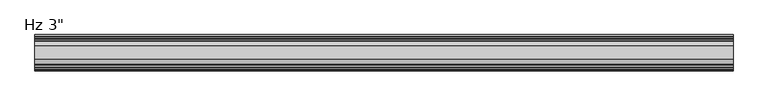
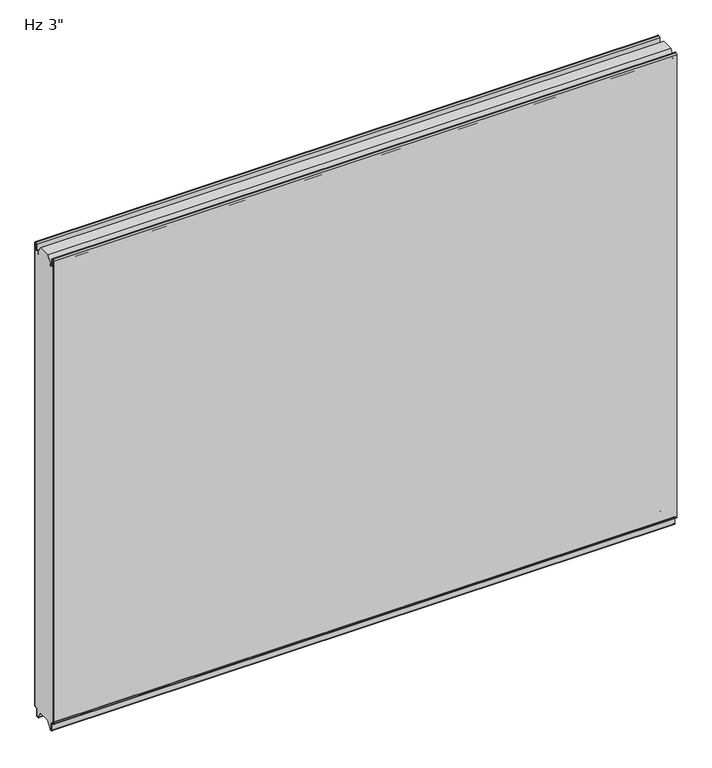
"""IFC4 building model written with IfcOpenShell, lengths in millimetres: plate geometry."""

from ifc_helpers import new_model, si_unit, frame, origin, place, context, project, spatial, polyline, circle_curve, source, transform, mapped, element, save
from ifc_brep_helpers import plane_surface, cylinder_surface, revolved_surface, advanced_brep


def plate_0367c04b(model_context):
    return source(origin(), model_context, "Body", "AdvancedBrep", [
        advanced_brep(
        [(-730.0, -73.2227194, 3.8499499), (-730.0, -75.1999935, 5.8272239), (-730.0, -75.2, 1150.8100652), (-730.0, -73.2227315, 1152.7873337), (-730.0, -72.1806329, 1152.7873337), (-730.0, -70.2033643, 1150.8100652), (-730.0, -70.2033643, 1136.6216802), (-730.0, -67.6154878, 1134.0338036), (-730.0, -63.2950697, 1134.0338036), (-730.0, -62.7060762, 1133.4253365), (-730.0, -62.7060762, 1131.0482432), (-730.0, -61.7066023, 1131.0482432), (-730.0, -61.7066023, 1136.4905123), (-730.0, -52.4490865, 1152.525), (-730.0, -23.7509179, 1152.525), (-730.0, -14.4933977, 1136.4905123), (-730.0, -14.4933977, 1131.0482432), (-730.0, -13.4939238, 1131.0482432), (-730.0, -13.4939238, 1133.4253365), (-730.0, -12.9049303, 1134.0338036), (-730.0, -8.5845122, 1134.0338036), (-730.0, -5.9966357, 1136.6216802), (-730.0, -5.9966357, 1150.8100652), (-730.0, -4.0193671, 1152.7873337), (-730.0, -2.9772685, 1152.7873337), (-730.0, -1.0, 1150.8100652), (-730.0, -1.0, 5.8272239), (-730.0, -2.9772806, 3.8499499), (-730.0, -5.2691705, 3.8499499), (-730.0, -9.2464377, -0.1273173), (-730.0, -9.2464377, -15.7237417), (-730.0, -9.8343146, -16.3116186), (-730.0, -12.9058635, -16.3116186), (-730.0, -13.4937402, -15.723742), (-730.0, -13.4937402, -13.3687064), (-730.0, -14.4937402, -13.3687064), (-730.0, -14.4937402, -15.6582851), (-730.0, -23.7509135, 0.0), (-730.0, -52.4490865, 0.0), (-730.0, -61.7062598, -15.6582851), (-730.0, -61.7062598, -13.3687064), (-730.0, -62.7062598, -13.3687064), (-730.0, -62.7062598, -15.723742), (-730.0, -63.2941365, -16.3116186), (-730.0, -66.3656854, -16.3116186), (-730.0, -66.9535623, -15.7237417), (-730.0, -66.9535623, -0.1273173), (-730.0, -70.9308295, 3.8499499), (730.0, -73.2227194, 3.8499499), (730.0, -70.9308295, 3.8499499), (730.0, -66.9535623, -0.1273173), (730.0, -66.9535623, -15.7237417), (730.0, -66.3656854, -16.3116186), (730.0, -63.2941365, -16.3116186), (730.0, -62.7062598, -15.723742), (730.0, -62.7062598, -13.3687064), (730.0, -61.7062598, -13.3687064), (730.0, -61.7062598, -15.6582851), (730.0, -52.4490865, 0.0), (730.0, -23.7509179, 0.0), (730.0, -14.4937402, -15.6582851), (730.0, -14.4937402, -13.3687064), (730.0, -13.4937402, -13.3687064), (730.0, -13.4937402, -15.723742), (730.0, -12.9058635, -16.3116186), (730.0, -9.8343146, -16.3116186), (730.0, -9.2464377, -15.7237417), (730.0, -9.2464377, -0.1273173), (730.0, -5.2691705, 3.8499499), (730.0, -2.9772806, 3.8499499), (730.0, -1.0000065, 5.8272239), (730.0, -1.0, 1150.8100652), (730.0, -2.9772685, 1152.7873337), (730.0, -4.0193671, 1152.7873337), (730.0, -5.9966357, 1150.8100652), (730.0, -5.9966357, 1136.6216802), (730.0, -8.5845122, 1134.0338036), (730.0, -12.9049303, 1134.0338036), (730.0, -13.4939238, 1133.4253365), (730.0, -13.4939238, 1131.0482432), (730.0, -14.4933977, 1131.0482432), (730.0, -14.4933977, 1136.4905123), (730.0, -23.7509135, 1152.525), (730.0, -52.4490865, 1152.525), (730.0, -61.7066023, 1136.4905123), (730.0, -61.7066023, 1131.0482432), (730.0, -62.7060762, 1131.0482432), (730.0, -62.7060762, 1133.4253365), (730.0, -63.2950697, 1134.0338036), (730.0, -67.6154878, 1134.0338036), (730.0, -70.2033643, 1136.6216802), (730.0, -70.2033643, 1150.8100652), (730.0, -72.1806329, 1152.7873337), (730.0, -73.2227315, 1152.7873337), (730.0, -75.2, 1150.8100652), (730.0, -75.2, 5.8272239)],
        [
            (0, 1, circle_curve(frame((-730.0, -73.2227194, 5.8272239), z_axis=(-1.0, 0.0, 0.0), x_axis=(0.0, 0.0, -1.0)), 1.977274)),
            (1, 2),
            (2, 3, circle_curve(frame((-730.0, -73.2227315, 1150.8100652), z_axis=(-1.0, 0.0, 0.0), x_axis=(0.0, 0.0, -1.0)), 1.9772685)),
            (3, 4),
            (4, 5, circle_curve(frame((-730.0, -72.1806329, 1150.8100652), z_axis=(-1.0, 0.0, 0.0), x_axis=(0.0, 0.0, -1.0)), 1.9772685)),
            (5, 6),
            (6, 7, circle_curve(frame((-730.0, -67.6154878, 1136.6216802), z_axis=(1.0, 0.0, 0.0), x_axis=(0.0, 0.0, -1.0)), 2.5878765)),
            (7, 8),
            (8, 9, circle_curve(frame((-730.0, -63.2950697, 1133.4444985), z_axis=(-1.0, 0.0, 0.0), x_axis=(0.0, 0.0, -1.0)), 0.5893051)),
            (9, 10),
            (10, 11),
            (11, 12),
            (12, 13),
            (13, 14),
            (14, 15),
            (15, 16),
            (16, 17),
            (17, 18),
            (18, 19, circle_curve(frame((-730.0, -12.9049303, 1133.4444985), z_axis=(-1.0, 0.0, 0.0), x_axis=(0.0, 1.0, 0.0)), 0.5893051)),
            (19, 20),
            (20, 21, circle_curve(frame((-730.0, -8.5845122, 1136.6216802), z_axis=(1.0, 0.0, 0.0), x_axis=(0.0, 1.0, 0.0)), 2.5878765)),
            (21, 22),
            (22, 23, circle_curve(frame((-730.0, -4.0193671, 1150.8100652), z_axis=(-1.0, 0.0, 0.0), x_axis=(0.0, 1.0, 0.0)), 1.9772685)),
            (23, 24),
            (24, 25, circle_curve(frame((-730.0, -2.9772685, 1150.8100652), z_axis=(-1.0, 0.0, 0.0), x_axis=(0.0, 1.0, 0.0)), 1.9772685)),
            (25, 26),
            (26, 27, circle_curve(frame((-730.0, -2.9772806, 5.8272239), z_axis=(-1.0, 0.0, 0.0), x_axis=(0.0, 1.0, 0.0)), 1.977274)),
            (27, 28),
            (28, 29, circle_curve(frame((-730.0, -5.2691705, -0.1273173), z_axis=(1.0, 0.0, 0.0), x_axis=(0.0, 1.0, 0.0)), 3.9772671)),
            (29, 30),
            (30, 31, circle_curve(frame((-730.0, -9.8343146, -15.7237417), z_axis=(-1.0, 0.0, 0.0), x_axis=(0.0, 1.0, 0.0)), 0.5878769)),
            (31, 32),
            (32, 33, circle_curve(frame((-730.0, -12.9058635, -15.723742), z_axis=(-1.0, 0.0, 0.0), x_axis=(0.0, 1.0, 0.0)), 0.5878766)),
            (33, 34),
            (34, 35),
            (35, 36),
            (36, 37),
            (37, 38),
            (38, 39),
            (39, 40),
            (40, 41),
            (41, 42),
            (42, 43, circle_curve(frame((-730.0, -63.2941365, -15.723742), z_axis=(-1.0, 0.0, 0.0), x_axis=(0.0, 0.0, -1.0)), 0.5878766)),
            (43, 44),
            (44, 45, circle_curve(frame((-730.0, -66.3656854, -15.7237417), z_axis=(-1.0, 0.0, 0.0), x_axis=(0.0, 0.0, -1.0)), 0.5878769)),
            (45, 46),
            (46, 47, circle_curve(frame((-730.0, -70.9308295, -0.1273173), z_axis=(1.0, 0.0, 0.0), x_axis=(0.0, 0.0, -1.0)), 3.9772671)),
            (47, 0),
            (48, 49),
            (49, 50, circle_curve(frame((730.0, -70.9308295, -0.1273173), z_axis=(-1.0, 0.0, 0.0), x_axis=(0.0, 0.0, -1.0)), 3.9772671)),
            (50, 51),
            (51, 52, circle_curve(frame((730.0, -66.3656854, -15.7237417), z_axis=(1.0, 0.0, 0.0), x_axis=(0.0, 0.0, -1.0)), 0.5878769)),
            (52, 53),
            (53, 54, circle_curve(frame((730.0, -63.2941365, -15.723742), z_axis=(1.0, 0.0, 0.0), x_axis=(0.0, 0.0, -1.0)), 0.5878766)),
            (54, 55),
            (55, 56),
            (56, 57),
            (57, 58),
            (58, 59),
            (59, 60),
            (60, 61),
            (61, 62),
            (62, 63),
            (63, 64, circle_curve(frame((730.0, -12.9058635, -15.723742), z_axis=(1.0, 0.0, 0.0), x_axis=(0.0, 1.0, 0.0)), 0.5878766)),
            (64, 65),
            (65, 66, circle_curve(frame((730.0, -9.8343146, -15.7237417), z_axis=(1.0, 0.0, 0.0), x_axis=(0.0, 1.0, 0.0)), 0.5878769)),
            (66, 67),
            (67, 68, circle_curve(frame((730.0, -5.2691705, -0.1273173), z_axis=(-1.0, 0.0, 0.0), x_axis=(0.0, 1.0, 0.0)), 3.9772671)),
            (68, 69),
            (69, 70, circle_curve(frame((730.0, -2.9772806, 5.8272239), z_axis=(1.0, 0.0, 0.0), x_axis=(0.0, 1.0, 0.0)), 1.977274)),
            (70, 71),
            (71, 72, circle_curve(frame((730.0, -2.9772685, 1150.8100652), z_axis=(1.0, 0.0, 0.0), x_axis=(0.0, 1.0, 0.0)), 1.9772685)),
            (72, 73),
            (73, 74, circle_curve(frame((730.0, -4.0193671, 1150.8100652), z_axis=(1.0, 0.0, 0.0), x_axis=(0.0, 1.0, 0.0)), 1.9772685)),
            (74, 75),
            (75, 76, circle_curve(frame((730.0, -8.5845122, 1136.6216802), z_axis=(-1.0, 0.0, 0.0), x_axis=(0.0, 1.0, 0.0)), 2.5878765)),
            (76, 77),
            (77, 78, circle_curve(frame((730.0, -12.9049303, 1133.4444985), z_axis=(1.0, 0.0, 0.0), x_axis=(0.0, 1.0, 0.0)), 0.5893051)),
            (78, 79),
            (79, 80),
            (80, 81),
            (81, 82),
            (82, 83),
            (83, 84),
            (84, 85),
            (85, 86),
            (86, 87),
            (87, 88, circle_curve(frame((730.0, -63.2950697, 1133.4444985), z_axis=(1.0, 0.0, 0.0), x_axis=(0.0, 0.0, -1.0)), 0.5893051)),
            (88, 89),
            (89, 90, circle_curve(frame((730.0, -67.6154878, 1136.6216802), z_axis=(-1.0, 0.0, 0.0), x_axis=(0.0, 0.0, -1.0)), 2.5878765)),
            (90, 91),
            (91, 92, circle_curve(frame((730.0, -72.1806329, 1150.8100652), z_axis=(1.0, 0.0, 0.0), x_axis=(0.0, 0.0, -1.0)), 1.9772685)),
            (92, 93),
            (93, 94, circle_curve(frame((730.0, -73.2227315, 1150.8100652), z_axis=(1.0, 0.0, 0.0), x_axis=(0.0, 0.0, -1.0)), 1.9772685)),
            (94, 95),
            (95, 48, circle_curve(frame((730.0, -73.2227194, 5.8272239), z_axis=(1.0, 0.0, 0.0), x_axis=(0.0, 0.0, -1.0)), 1.977274)),
            (13, 83),
            (82, 14),
            (58, 38),
            (37, 59),
            (47, 49),
            (48, 0),
            (46, 50),
            (45, 51),
            (44, 52),
            (43, 53),
            (42, 54),
            (41, 55),
            (40, 56),
            (39, 57),
            (12, 84),
            (11, 85),
            (10, 86),
            (9, 87),
            (8, 88),
            (7, 89),
            (6, 90),
            (5, 91),
            (4, 92),
            (3, 93),
            (2, 94),
            (1, 95),
            (26, 70),
            (69, 27),
            (25, 71),
            (24, 72),
            (23, 73),
            (22, 74),
            (21, 75),
            (20, 76),
            (19, 77),
            (18, 78),
            (17, 79),
            (16, 80),
            (15, 81),
            (36, 60),
            (35, 61),
            (34, 62),
            (33, 63),
            (32, 64),
            (31, 65),
            (30, 66),
            (29, 67),
            (28, 68),
        ],
        [
            plane_surface(frame((-730.0, -75.2, 576.2625), z_axis=(-1.0, 0.0, 0.0), x_axis=(0.0, -1.0, 0.0))),
            plane_surface(frame((730.0, -75.2, 576.2625), z_axis=(1.0, 0.0, 0.0), x_axis=(0.0, -1.0, 0.0))),
            plane_surface(frame((-730.0, -52.4490865, 1152.525), z_axis=(0.0, 0.0, 1.0), x_axis=(-1.0, 0.0, 0.0))),
            plane_surface(frame((-730.0, -52.4490865, 0.0), z_axis=(0.0, 0.0, -1.0), x_axis=(1.0, 0.0, 0.0))),
            plane_surface(frame((-730.0, -73.2227194, 3.8499499), z_axis=(0.0, 0.0, -1.0), x_axis=(1.0, 0.0, 0.0))),
            revolved_surface(polyline([(730.0, -70.9308295, -4.1045844), (-730.0, -70.9308295, -4.1045844)]), (-730.0, -70.9308295, -0.1273173), (1.0, 0.0, 0.0)),
            plane_surface(frame((-730.0, -66.9535623, -0.1273173), z_axis=(0.0, -1.0, 0.0), x_axis=(1.0, 0.0, 0.0))),
            cylinder_surface(frame((-730.0, -66.3656854, -15.7237417), z_axis=(-1.0, 0.0, 0.0), x_axis=(0.0, 0.0, -1.0)), 0.5878769),
            plane_surface(frame((-730.0, -66.3656854, -16.3116186), z_axis=(0.0, 0.0, -1.0), x_axis=(1.0, 0.0, 0.0))),
            cylinder_surface(frame((-730.0, -63.2941365, -15.723742), z_axis=(-1.0, 0.0, 0.0), x_axis=(0.0, 0.0, -1.0)), 0.5878766),
            plane_surface(frame((-730.0, -62.7062598, -15.723742), z_axis=(0.0, 1.0, 0.0), x_axis=(1.0, 0.0, 0.0))),
            plane_surface(frame((-730.0, -62.7062598, -13.3687064), z_axis=(0.0, 0.0, -1.0), x_axis=(1.0, 0.0, 0.0))),
            plane_surface(frame((-730.0, -61.7062598, -13.3687064), z_axis=(0.0, -1.0, 0.0), x_axis=(1.0, 0.0, 0.0))),
            plane_surface(frame((-730.0, -61.7062598, -15.6582851), z_axis=(0.0, 0.8608169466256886, -0.5089147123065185), x_axis=(1.0, 0.0, 0.0))),
            plane_surface(frame((-730.0, -52.4490865, 1152.525), z_axis=(0.0, -0.8660254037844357, 0.5000000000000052), x_axis=(1.0, 0.0, 0.0))),
            plane_surface(frame((-730.0, -61.7066023, 1136.4905123), z_axis=(0.0, -1.0, 0.0), x_axis=(1.0, 0.0, 0.0))),
            plane_surface(frame((-730.0, -61.7066023, 1131.0482432), z_axis=(0.0, 0.0, 1.0), x_axis=(1.0, 0.0, 0.0))),
            plane_surface(frame((-730.0, -62.7060762, 1131.0482432), z_axis=(0.0, 1.0, 0.0), x_axis=(1.0, 0.0, 0.0))),
            cylinder_surface(frame((-730.0, -63.2950697, 1133.4444985), z_axis=(-1.0, 0.0, 0.0), x_axis=(0.0, 0.0, -1.0)), 0.5893051),
            plane_surface(frame((-730.0, -63.2950697, 1134.0338036), z_axis=(0.0, 0.0, 1.0), x_axis=(1.0, 0.0, 0.0))),
            revolved_surface(polyline([(730.0, -67.6154878, 1134.0338037), (-730.0, -67.6154878, 1134.0338037)]), (-730.0, -67.6154878, 1136.6216802), (1.0, 0.0, 0.0)),
            plane_surface(frame((-730.0, -70.2033643, 1136.6216802), z_axis=(0.0, 1.0, 0.0), x_axis=(1.0, 0.0, 0.0))),
            cylinder_surface(frame((-730.0, -72.1806329, 1150.8100652), z_axis=(-1.0, 0.0, 0.0), x_axis=(0.0, 0.0, -1.0)), 1.9772685),
            plane_surface(frame((-730.0, -72.1806329, 1152.7873337), z_axis=(0.0, 0.0, 1.0), x_axis=(1.0, 0.0, 0.0))),
            cylinder_surface(frame((-730.0, -73.2227315, 1150.8100652), z_axis=(-1.0, 0.0, 0.0), x_axis=(0.0, 0.0, -1.0)), 1.9772685),
            plane_surface(frame((-730.0, -75.2, 1150.8100652), z_axis=(0.0, -1.0, 0.0), x_axis=(1.0, 0.0, 0.0))),
            cylinder_surface(frame((-730.0, -73.2227194, 5.8272239), z_axis=(-1.0, 0.0, 0.0), x_axis=(0.0, 0.0, -1.0)), 1.977274),
            cylinder_surface(frame((-730.0, -2.9772806, 5.8272239), z_axis=(-1.0, 0.0, 0.0), x_axis=(0.0, 1.0, 0.0)), 1.977274),
            plane_surface(frame((-730.0, -1.0, 5.8272239), z_axis=(0.0, 1.0, 0.0), x_axis=(1.0, 0.0, 0.0))),
            cylinder_surface(frame((-730.0, -2.9772685, 1150.8100652), z_axis=(-1.0, 0.0, 0.0), x_axis=(0.0, 1.0, 0.0)), 1.9772685),
            plane_surface(frame((-730.0, -2.9772685, 1152.7873337), z_axis=(0.0, 0.0, 1.0), x_axis=(1.0, 0.0, 0.0))),
            cylinder_surface(frame((-730.0, -4.0193671, 1150.8100652), z_axis=(-1.0, 0.0, 0.0), x_axis=(0.0, 1.0, 0.0)), 1.9772685),
            plane_surface(frame((-730.0, -5.9966357, 1150.8100652), z_axis=(0.0, -1.0, 0.0), x_axis=(1.0, 0.0, 0.0))),
            revolved_surface(polyline([(730.0, -5.996635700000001, 1136.6216802), (-730.0, -5.996635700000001, 1136.6216802)]), (-730.0, -8.5845122, 1136.6216802), (1.0, 0.0, 0.0)),
            plane_surface(frame((-730.0, -8.5845122, 1134.0338036), z_axis=(0.0, 0.0, 1.0), x_axis=(1.0, 0.0, 0.0))),
            cylinder_surface(frame((-730.0, -12.9049303, 1133.4444985), z_axis=(-1.0, 0.0, 0.0), x_axis=(0.0, 1.0, 0.0)), 0.5893051),
            plane_surface(frame((-730.0, -13.4939238, 1133.4253365), z_axis=(0.0, -1.0, 0.0), x_axis=(1.0, 0.0, 0.0))),
            plane_surface(frame((-730.0, -13.4939238, 1131.0482432), z_axis=(0.0, 0.0, 1.0), x_axis=(1.0, 0.0, 0.0))),
            plane_surface(frame((-730.0, -14.4933977, 1131.0482432), z_axis=(0.0, 1.0, 0.0), x_axis=(1.0, 0.0, 0.0))),
            plane_surface(frame((-730.0, -14.4933977, 1136.4905123), z_axis=(0.0, 0.8660254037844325, 0.5000000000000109), x_axis=(1.0, 0.0, 0.0))),
            plane_surface(frame((-730.0, -23.7509135, 0.0), z_axis=(0.0, -0.8608169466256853, -0.5089147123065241), x_axis=(1.0, 0.0, 0.0))),
            plane_surface(frame((-730.0, -14.4937402, -15.6582851), z_axis=(0.0, 1.0, 0.0), x_axis=(1.0, 0.0, 0.0))),
            plane_surface(frame((-730.0, -14.4937402, -13.3687064), z_axis=(0.0, 0.0, -1.0), x_axis=(1.0, 0.0, 0.0))),
            plane_surface(frame((-730.0, -13.4937402, -13.3687064), z_axis=(0.0, -1.0, 0.0), x_axis=(1.0, 0.0, 0.0))),
            cylinder_surface(frame((-730.0, -12.9058635, -15.723742), z_axis=(-1.0, 0.0, 0.0), x_axis=(0.0, 1.0, 0.0)), 0.5878766),
            plane_surface(frame((-730.0, -12.9058635, -16.3116186), z_axis=(0.0, 0.0, -1.0), x_axis=(1.0, 0.0, 0.0))),
            cylinder_surface(frame((-730.0, -9.8343146, -15.7237417), z_axis=(-1.0, 0.0, 0.0), x_axis=(0.0, 1.0, 0.0)), 0.5878769),
            plane_surface(frame((-730.0, -9.2464377, -15.7237417), z_axis=(0.0, 1.0, 0.0), x_axis=(1.0, 0.0, 0.0))),
            revolved_surface(polyline([(730.0, -1.2919034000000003, -0.1273173), (-730.0, -1.2919034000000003, -0.1273173)]), (-730.0, -5.2691705, -0.1273173), (1.0, 0.0, 0.0)),
            plane_surface(frame((-730.0, -5.2691705, 3.8499499), z_axis=(0.0, 0.0, -1.0), x_axis=(1.0, 0.0, 0.0))),
        ],
        [
            (0, [[1, 2, 3, 4, 5, 6, 7, 8, 9, 10, 11, 12, 13, 14, 15, 16, 17, 18, 19, 20, 21, 22, 23, 24, 25, 26, 27, 28, 29, 30, 31, 32, 33, 34, 35, 36, 37, 38, 39, 40, 41, 42, 43, 44, 45, 46, 47, 48]]),
            (1, [[49, 50, 51, 52, 53, 54, 55, 56, 57, 58, 59, 60, 61, 62, 63, 64, 65, 66, 67, 68, 69, 70, 71, 72, 73, 74, 75, 76, 77, 78, 79, 80, 81, 82, 83, 84, 85, 86, 87, 88, 89, 90, 91, 92, 93, 94, 95, 96]]),
            (2, [[97, -83, 98, -14]]),
            (3, [[99, -38, 100, -59]]),
            (4, [[101, -49, 102, -48]]),
            (5, [[103, -50, -101, -47]]),
            (6, [[104, -51, -103, -46]]),
            (7, [[105, -52, -104, -45]]),
            (8, [[106, -53, -105, -44]]),
            (9, [[107, -54, -106, -43]]),
            (10, [[108, -55, -107, -42]]),
            (11, [[109, -56, -108, -41]]),
            (12, [[110, -57, -109, -40]]),
            (13, [[-99, -58, -110, -39]]),
            (14, [[111, -84, -97, -13]]),
            (15, [[112, -85, -111, -12]]),
            (16, [[113, -86, -112, -11]]),
            (17, [[114, -87, -113, -10]]),
            (18, [[115, -88, -114, -9]]),
            (19, [[116, -89, -115, -8]]),
            (20, [[117, -90, -116, -7]]),
            (21, [[118, -91, -117, -6]]),
            (22, [[119, -92, -118, -5]]),
            (23, [[120, -93, -119, -4]]),
            (24, [[121, -94, -120, -3]]),
            (25, [[122, -95, -121, -2]]),
            (26, [[-102, -96, -122, -1]]),
            (27, [[123, -70, 124, -27]]),
            (28, [[125, -71, -123, -26]]),
            (29, [[126, -72, -125, -25]]),
            (30, [[127, -73, -126, -24]]),
            (31, [[128, -74, -127, -23]]),
            (32, [[129, -75, -128, -22]]),
            (33, [[130, -76, -129, -21]]),
            (34, [[131, -77, -130, -20]]),
            (35, [[132, -78, -131, -19]]),
            (36, [[133, -79, -132, -18]]),
            (37, [[134, -80, -133, -17]]),
            (38, [[135, -81, -134, -16]]),
            (39, [[-98, -82, -135, -15]]),
            (40, [[136, -60, -100, -37]]),
            (41, [[137, -61, -136, -36]]),
            (42, [[138, -62, -137, -35]]),
            (43, [[139, -63, -138, -34]]),
            (44, [[140, -64, -139, -33]]),
            (45, [[141, -65, -140, -32]]),
            (46, [[142, -66, -141, -31]]),
            (47, [[143, -67, -142, -30]]),
            (48, [[144, -68, -143, -29]]),
            (49, [[-124, -69, -144, -28]]),
        ],
    ),
        advanced_brep(
        [(-730.0, -2.9776189, 3.8501063), (-730.0, -1.0007088, 5.8270163), (-730.0, -1.0007088, 1150.812837), (-730.0, -2.97659, 1152.7887182), (-730.0, -4.019022, 1152.7887182), (-730.0, -5.9969834, 1150.8107568), (-730.0, -5.9969834, 1136.6215971), (-730.0, -8.5846834, 1134.0338971), (-730.0, -12.9049158, 1134.0338971), (-730.0, -13.4939528, 1133.4253599), (-730.0, -13.4939528, 1131.0482432), (-730.0, -14.4933977, 1131.0482432), (-730.0, -14.4933977, 1133.3929042), (-730.0, -12.9049303, 1135.0338036), (-730.0, -8.5845122, 1135.0338036), (-730.0, -6.9966356, 1136.6216801), (-730.0, -6.9966356, 1150.8100652), (-730.0, -4.0193671, 1153.7873337), (-730.0, -2.9772685, 1153.7873337), (-730.0, 0.0, 1150.8100652), (-730.0, 0.0, 5.8272211), (-730.0, -2.977286, 2.8499526), (-730.0, -5.2691698, 2.8499526), (-730.0, -8.2464384, -0.1273159), (-730.0, -8.2464384, -15.7237419), (-730.0, -9.8343149, -17.3116185), (-730.0, -12.9058636, -17.3116185), (-730.0, -14.4937401, -15.7237419), (-730.0, -14.4937401, -13.3687064), (-730.0, -13.4937365, -13.3687064), (-730.0, -13.4937365, -15.7237374), (-730.0, -12.9058654, -16.3116086), (-730.0, -9.834334, -16.3116086), (-730.0, -9.2464768, -15.7237514), (-730.0, -9.2464768, -0.1272391), (-730.0, -5.2691315, 3.8501063), (730.0, -2.9776189, 3.8501063), (730.0, -5.2691315, 3.8501063), (730.0, -9.2464768, -0.1272391), (730.0, -9.2464768, -15.7237514), (730.0, -9.834334, -16.3116086), (730.0, -12.9058654, -16.3116086), (730.0, -13.4937365, -15.7237374), (730.0, -13.4937365, -13.3687064), (730.0, -14.4937401, -13.3687064), (730.0, -14.4937401, -15.7237419), (730.0, -12.9058636, -17.3116185), (730.0, -9.8343149, -17.3116185), (730.0, -8.2464384, -15.7237419), (730.0, -8.2464384, -0.1273159), (730.0, -5.2691698, 2.8499526), (730.0, -2.977286, 2.8499526), (730.0, -1.75e-05, 5.8272211), (730.0, 0.0, 1150.8100652), (730.0, -2.9772685, 1153.7873337), (730.0, -4.0193671, 1153.7873337), (730.0, -6.9966356, 1150.8100652), (730.0, -6.9966356, 1136.6216801), (730.0, -8.5845122, 1135.0338036), (730.0, -12.9049303, 1135.0338036), (730.0, -14.4933977, 1133.3929042), (730.0, -14.4933977, 1131.0482432), (730.0, -13.4939528, 1131.0482432), (730.0, -13.4939528, 1133.4253599), (730.0, -12.9049158, 1134.0338971), (730.0, -8.5846834, 1134.0338971), (730.0, -5.9969834, 1136.6215971), (730.0, -5.9969834, 1150.8107568), (730.0, -4.019022, 1152.7887182), (730.0, -2.97659, 1152.7887182), (730.0, -1.0007088, 1150.812837), (730.0, -1.0007088, 5.8270163)],
        [
            (0, 1, circle_curve(frame((-730.0, -2.9776189, 5.8270163), z_axis=(1.0, 0.0, 0.0), x_axis=(0.0, 1.0, 0.0)), 1.9769101)),
            (1, 2),
            (2, 3, circle_curve(frame((-730.0, -2.97659, 1150.812837), z_axis=(1.0, 0.0, 0.0), x_axis=(0.0, 1.0, 0.0)), 1.9758812)),
            (3, 4),
            (4, 5, circle_curve(frame((-730.0, -4.019022, 1150.8107568), z_axis=(1.0, 0.0, 0.0), x_axis=(0.0, 1.0, 0.0)), 1.9779614)),
            (5, 6),
            (6, 7, circle_curve(frame((-730.0, -8.5846834, 1136.6215971), z_axis=(-1.0, 0.0, 0.0), x_axis=(0.0, 1.0, 0.0)), 2.5877)),
            (7, 8),
            (8, 9, circle_curve(frame((-730.0, -12.9049158, 1133.4445477), z_axis=(1.0, 0.0, 0.0), x_axis=(0.0, 1.0, 0.0)), 0.5893495)),
            (9, 10),
            (10, 11),
            (11, 12),
            (12, 13, circle_curve(frame((-730.0, -12.9049303, 1133.4444985), z_axis=(-1.0, 0.0, 0.0), x_axis=(0.0, 1.0, 0.0)), 1.5893051)),
            (13, 14),
            (14, 15, circle_curve(frame((-730.0, -8.5845122, 1136.6216801), z_axis=(1.0, 0.0, 0.0), x_axis=(0.0, 1.0, 0.0)), 1.5878765)),
            (15, 16),
            (16, 17, circle_curve(frame((-730.0, -4.0193671, 1150.8100652), z_axis=(-1.0, 0.0, 0.0), x_axis=(0.0, 1.0, 0.0)), 2.9772685)),
            (17, 18),
            (18, 19, circle_curve(frame((-730.0, -2.9772685, 1150.8100652), z_axis=(-1.0, 0.0, 0.0), x_axis=(0.0, 1.0, 0.0)), 2.9772685)),
            (19, 20),
            (20, 21, circle_curve(frame((-730.0, -2.977286, 5.8272211), z_axis=(-1.0, 0.0, 0.0), x_axis=(0.0, 1.0, 0.0)), 2.9772685)),
            (21, 22),
            (22, 23, circle_curve(frame((-730.0, -5.2691698, -0.1273159), z_axis=(1.0, 0.0, 0.0), x_axis=(0.0, 1.0, 0.0)), 2.9772685)),
            (23, 24),
            (24, 25, circle_curve(frame((-730.0, -9.8343149, -15.7237419), z_axis=(-1.0, 0.0, 0.0), x_axis=(0.0, 1.0, 0.0)), 1.5878765)),
            (25, 26),
            (26, 27, circle_curve(frame((-730.0, -12.9058636, -15.7237419), z_axis=(-1.0, 0.0, 0.0), x_axis=(0.0, 1.0, 0.0)), 1.5878765)),
            (27, 28),
            (28, 29),
            (29, 30),
            (30, 31, circle_curve(frame((-730.0, -12.9058654, -15.7237374), z_axis=(1.0, 0.0, 0.0), x_axis=(0.0, 1.0, 0.0)), 0.5878711)),
            (31, 32),
            (32, 33, circle_curve(frame((-730.0, -9.834334, -15.7237514), z_axis=(1.0, 0.0, 0.0), x_axis=(0.0, 1.0, 0.0)), 0.5878572)),
            (33, 34),
            (34, 35, circle_curve(frame((-730.0, -5.2691315, -0.1272391), z_axis=(-1.0, 0.0, 0.0), x_axis=(0.0, 1.0, 0.0)), 3.9773454)),
            (35, 0),
            (36, 37),
            (37, 38, circle_curve(frame((730.0, -5.2691315, -0.1272391), z_axis=(1.0, 0.0, 0.0), x_axis=(0.0, 1.0, 0.0)), 3.9773454)),
            (38, 39),
            (39, 40, circle_curve(frame((730.0, -9.834334, -15.7237514), z_axis=(-1.0, 0.0, 0.0), x_axis=(0.0, 1.0, 0.0)), 0.5878572)),
            (40, 41),
            (41, 42, circle_curve(frame((730.0, -12.9058654, -15.7237374), z_axis=(-1.0, 0.0, 0.0), x_axis=(0.0, 1.0, 0.0)), 0.5878711)),
            (42, 43),
            (43, 44),
            (44, 45),
            (45, 46, circle_curve(frame((730.0, -12.9058636, -15.7237419), z_axis=(1.0, 0.0, 0.0), x_axis=(0.0, 1.0, 0.0)), 1.5878765)),
            (46, 47),
            (47, 48, circle_curve(frame((730.0, -9.8343149, -15.7237419), z_axis=(1.0, 0.0, 0.0), x_axis=(0.0, 1.0, 0.0)), 1.5878765)),
            (48, 49),
            (49, 50, circle_curve(frame((730.0, -5.2691698, -0.1273159), z_axis=(-1.0, 0.0, 0.0), x_axis=(0.0, 1.0, 0.0)), 2.9772685)),
            (50, 51),
            (51, 52, circle_curve(frame((730.0, -2.977286, 5.8272211), z_axis=(1.0, 0.0, 0.0), x_axis=(0.0, 1.0, 0.0)), 2.9772685)),
            (52, 53),
            (53, 54, circle_curve(frame((730.0, -2.9772685, 1150.8100652), z_axis=(1.0, 0.0, 0.0), x_axis=(0.0, 1.0, 0.0)), 2.9772685)),
            (54, 55),
            (55, 56, circle_curve(frame((730.0, -4.0193671, 1150.8100652), z_axis=(1.0, 0.0, 0.0), x_axis=(0.0, 1.0, 0.0)), 2.9772685)),
            (56, 57),
            (57, 58, circle_curve(frame((730.0, -8.5845122, 1136.6216801), z_axis=(-1.0, 0.0, 0.0), x_axis=(0.0, 1.0, 0.0)), 1.5878765)),
            (58, 59),
            (59, 60, circle_curve(frame((730.0, -12.9049303, 1133.4444985), z_axis=(1.0, 0.0, 0.0), x_axis=(0.0, 1.0, 0.0)), 1.5893051)),
            (60, 61),
            (61, 62),
            (62, 63),
            (63, 64, circle_curve(frame((730.0, -12.9049158, 1133.4445477), z_axis=(-1.0, 0.0, 0.0), x_axis=(0.0, 1.0, 0.0)), 0.5893495)),
            (64, 65),
            (65, 66, circle_curve(frame((730.0, -8.5846834, 1136.6215971), z_axis=(1.0, 0.0, 0.0), x_axis=(0.0, 1.0, 0.0)), 2.5877)),
            (66, 67),
            (67, 68, circle_curve(frame((730.0, -4.019022, 1150.8107568), z_axis=(-1.0, 0.0, 0.0), x_axis=(0.0, 1.0, 0.0)), 1.9779614)),
            (68, 69),
            (69, 70, circle_curve(frame((730.0, -2.97659, 1150.812837), z_axis=(-1.0, 0.0, 0.0), x_axis=(0.0, 1.0, 0.0)), 1.9758812)),
            (70, 71),
            (71, 36, circle_curve(frame((730.0, -2.9776189, 5.8270163), z_axis=(-1.0, 0.0, 0.0), x_axis=(0.0, 1.0, 0.0)), 1.9769101)),
            (35, 37),
            (36, 0),
            (34, 38),
            (33, 39),
            (32, 40),
            (31, 41),
            (30, 42),
            (29, 43),
            (28, 44),
            (27, 45),
            (26, 46),
            (25, 47),
            (24, 48),
            (23, 49),
            (22, 50),
            (21, 51),
            (20, 52),
            (19, 53),
            (18, 54),
            (17, 55),
            (16, 56),
            (15, 57),
            (14, 58),
            (13, 59),
            (12, 60),
            (11, 61),
            (10, 62),
            (9, 63),
            (8, 64),
            (7, 65),
            (6, 66),
            (5, 67),
            (4, 68),
            (3, 69),
            (2, 70),
            (1, 71),
        ],
        [
            plane_surface(frame((-730.0, 0.0, 576.2625), z_axis=(-1.0, 0.0, 0.0), x_axis=(0.0, 1.0, 0.0))),
            plane_surface(frame((730.0, 0.0, 576.2625), z_axis=(1.0, 0.0, 0.0), x_axis=(0.0, 1.0, 0.0))),
            plane_surface(frame((-730.0, -2.9776189, 3.8501063), z_axis=(0.0, 0.0, 1.0), x_axis=(1.0, 0.0, 0.0))),
            cylinder_surface(frame((-730.0, -5.2691315, -0.1272391), z_axis=(-1.0, 0.0, 0.0), x_axis=(0.0, 1.0, 0.0)), 3.9773454),
            plane_surface(frame((-730.0, -9.2464768, -0.1272391), z_axis=(0.0, -1.0, 0.0), x_axis=(1.0, 0.0, 0.0))),
            revolved_surface(polyline([(730.0, -9.2464768, -15.7237514), (-730.0, -9.2464768, -15.7237514)]), (-730.0, -9.834334, -15.7237514), (1.0, 0.0, 0.0)),
            plane_surface(frame((-730.0, -9.834334, -16.3116086), z_axis=(0.0, 0.0, 1.0), x_axis=(1.0, 0.0, 0.0))),
            revolved_surface(polyline([(730.0, -12.3179943, -15.7237374), (-730.0, -12.3179943, -15.7237374)]), (-730.0, -12.9058654, -15.7237374), (1.0, 0.0, 0.0)),
            plane_surface(frame((-730.0, -13.4937365, -15.7237374), z_axis=(0.0, 1.0, 0.0), x_axis=(1.0, 0.0, 0.0))),
            plane_surface(frame((-730.0, -13.4937365, -13.3687064), z_axis=(0.0, 0.0, 1.0), x_axis=(1.0, 0.0, 0.0))),
            plane_surface(frame((-730.0, -14.4937401, -13.3687064), z_axis=(0.0, -1.0, 0.0), x_axis=(1.0, 0.0, 0.0))),
            cylinder_surface(frame((-730.0, -12.9058636, -15.7237419), z_axis=(-1.0, 0.0, 0.0), x_axis=(0.0, 1.0, 0.0)), 1.5878765),
            plane_surface(frame((-730.0, -12.9058636, -17.3116185), z_axis=(0.0, 0.0, -1.0), x_axis=(1.0, 0.0, 0.0))),
            cylinder_surface(frame((-730.0, -9.8343149, -15.7237419), z_axis=(-1.0, 0.0, 0.0), x_axis=(0.0, 1.0, 0.0)), 1.5878765),
            plane_surface(frame((-730.0, -8.2464384, -15.7237419), z_axis=(0.0, 1.0, 0.0), x_axis=(1.0, 0.0, 0.0))),
            revolved_surface(polyline([(730.0, -2.2919013, -0.1273159), (-730.0, -2.2919013, -0.1273159)]), (-730.0, -5.2691698, -0.1273159), (1.0, 0.0, 0.0)),
            plane_surface(frame((-730.0, -5.2691698, 2.8499526), z_axis=(0.0, 0.0, -1.0), x_axis=(1.0, 0.0, 0.0))),
            cylinder_surface(frame((-730.0, -2.977286, 5.8272211), z_axis=(-1.0, 0.0, 0.0), x_axis=(0.0, 1.0, 0.0)), 2.9772685),
            plane_surface(frame((-730.0, 0.0, 5.8272211), z_axis=(0.0, 1.0, 0.0), x_axis=(1.0, 0.0, 0.0))),
            cylinder_surface(frame((-730.0, -2.9772685, 1150.8100652), z_axis=(-1.0, 0.0, 0.0), x_axis=(0.0, 1.0, 0.0)), 2.9772685),
            plane_surface(frame((-730.0, -2.9772685, 1153.7873337), z_axis=(0.0, 0.0, 1.0), x_axis=(1.0, 0.0, 0.0))),
            cylinder_surface(frame((-730.0, -4.0193671, 1150.8100652), z_axis=(-1.0, 0.0, 0.0), x_axis=(0.0, 1.0, 0.0)), 2.9772685),
            plane_surface(frame((-730.0, -6.9966356, 1150.8100652), z_axis=(0.0, -1.0, 0.0), x_axis=(1.0, 0.0, 0.0))),
            revolved_surface(polyline([(730.0, -6.996635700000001, 1136.6216801), (-730.0, -6.996635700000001, 1136.6216801)]), (-730.0, -8.5845122, 1136.6216801), (1.0, 0.0, 0.0)),
            plane_surface(frame((-730.0, -8.5845122, 1135.0338036), z_axis=(0.0, 0.0, 1.0), x_axis=(1.0, 0.0, 0.0))),
            cylinder_surface(frame((-730.0, -12.9049303, 1133.4444985), z_axis=(-1.0, 0.0, 0.0), x_axis=(0.0, 1.0, 0.0)), 1.5893051),
            plane_surface(frame((-730.0, -14.4933977, 1133.3929042), z_axis=(0.0, -1.0, 0.0), x_axis=(1.0, 0.0, 0.0))),
            plane_surface(frame((-730.0, -14.4933977, 1131.0482432), z_axis=(0.0, 0.0, -1.0), x_axis=(1.0, 0.0, 0.0))),
            plane_surface(frame((-730.0, -13.4939528, 1131.0482432), z_axis=(0.0, 1.0, 0.0), x_axis=(1.0, 0.0, 0.0))),
            revolved_surface(polyline([(730.0, -12.3155663, 1133.4445477), (-730.0, -12.3155663, 1133.4445477)]), (-730.0, -12.9049158, 1133.4445477), (1.0, 0.0, 0.0)),
            plane_surface(frame((-730.0, -12.9049158, 1134.0338971), z_axis=(0.0, 0.0, -1.0), x_axis=(1.0, 0.0, 0.0))),
            cylinder_surface(frame((-730.0, -8.5846834, 1136.6215971), z_axis=(-1.0, 0.0, 0.0), x_axis=(0.0, 1.0, 0.0)), 2.5877),
            plane_surface(frame((-730.0, -5.9969834, 1136.6215971), z_axis=(0.0, 1.0, 0.0), x_axis=(1.0, 0.0, 0.0))),
            revolved_surface(polyline([(730.0, -2.0410606, 1150.8107568), (-730.0, -2.0410606, 1150.8107568)]), (-730.0, -4.019022, 1150.8107568), (1.0, 0.0, 0.0)),
            plane_surface(frame((-730.0, -4.019022, 1152.7887182), z_axis=(0.0, 0.0, -1.0), x_axis=(1.0, 0.0, 0.0))),
            revolved_surface(polyline([(730.0, -1.0007088, 1150.812837), (-730.0, -1.0007088, 1150.812837)]), (-730.0, -2.97659, 1150.812837), (1.0, 0.0, 0.0)),
            plane_surface(frame((-730.0, -1.0007088, 1150.812837), z_axis=(0.0, -1.0, 0.0), x_axis=(1.0, 0.0, 0.0))),
            revolved_surface(polyline([(730.0, -1.0007088, 5.8270163), (-730.0, -1.0007088, 5.8270163)]), (-730.0, -2.9776189, 5.8270163), (1.0, 0.0, 0.0)),
        ],
        [
            (0, [[1, 2, 3, 4, 5, 6, 7, 8, 9, 10, 11, 12, 13, 14, 15, 16, 17, 18, 19, 20, 21, 22, 23, 24, 25, 26, 27, 28, 29, 30, 31, 32, 33, 34, 35, 36]]),
            (1, [[37, 38, 39, 40, 41, 42, 43, 44, 45, 46, 47, 48, 49, 50, 51, 52, 53, 54, 55, 56, 57, 58, 59, 60, 61, 62, 63, 64, 65, 66, 67, 68, 69, 70, 71, 72]]),
            (2, [[73, -37, 74, -36]]),
            (3, [[75, -38, -73, -35]]),
            (4, [[76, -39, -75, -34]]),
            (5, [[77, -40, -76, -33]]),
            (6, [[78, -41, -77, -32]]),
            (7, [[79, -42, -78, -31]]),
            (8, [[80, -43, -79, -30]]),
            (9, [[81, -44, -80, -29]]),
            (10, [[82, -45, -81, -28]]),
            (11, [[83, -46, -82, -27]]),
            (12, [[84, -47, -83, -26]]),
            (13, [[85, -48, -84, -25]]),
            (14, [[86, -49, -85, -24]]),
            (15, [[87, -50, -86, -23]]),
            (16, [[88, -51, -87, -22]]),
            (17, [[89, -52, -88, -21]]),
            (18, [[90, -53, -89, -20]]),
            (19, [[91, -54, -90, -19]]),
            (20, [[92, -55, -91, -18]]),
            (21, [[93, -56, -92, -17]]),
            (22, [[94, -57, -93, -16]]),
            (23, [[95, -58, -94, -15]]),
            (24, [[96, -59, -95, -14]]),
            (25, [[97, -60, -96, -13]]),
            (26, [[98, -61, -97, -12]]),
            (27, [[99, -62, -98, -11]]),
            (28, [[100, -63, -99, -10]]),
            (29, [[101, -64, -100, -9]]),
            (30, [[102, -65, -101, -8]]),
            (31, [[103, -66, -102, -7]]),
            (32, [[104, -67, -103, -6]]),
            (33, [[105, -68, -104, -5]]),
            (34, [[106, -69, -105, -4]]),
            (35, [[107, -70, -106, -3]]),
            (36, [[108, -71, -107, -2]]),
            (37, [[-74, -72, -108, -1]]),
        ],
    ),
        advanced_brep(
        [(-730.0, -73.2223811, 3.8501063), (-730.0, -70.9308685, 3.8501063), (-730.0, -66.9535232, -0.1272391), (-730.0, -66.9535232, -15.7237514), (-730.0, -66.365666, -16.3116086), (-730.0, -63.2941346, -16.3116086), (-730.0, -62.7062635, -15.7237374), (-730.0, -62.7062635, -13.3687064), (-730.0, -61.7062599, -13.3687064), (-730.0, -61.7062599, -15.7237419), (-730.0, -63.2941364, -17.3116185), (-730.0, -66.3656851, -17.3116185), (-730.0, -67.9535616, -15.7237419), (-730.0, -67.9535616, -0.1273159), (-730.0, -70.9308302, 2.8499526), (-730.0, -73.222714, 2.8499526), (-730.0, -76.1999825, 5.8272211), (-730.0, -76.2, 1150.8100652), (-730.0, -73.2227315, 1153.7873337), (-730.0, -72.1806329, 1153.7873337), (-730.0, -69.2033644, 1150.8100652), (-730.0, -69.2033644, 1136.6216801), (-730.0, -67.6154878, 1135.0338036), (-730.0, -63.2950697, 1135.0338036), (-730.0, -61.7066023, 1133.3929042), (-730.0, -61.7066023, 1131.0482432), (-730.0, -62.7060472, 1131.0482432), (-730.0, -62.7060472, 1133.4253599), (-730.0, -63.2950842, 1134.0338971), (-730.0, -67.6153166, 1134.0338971), (-730.0, -70.2030166, 1136.6215971), (-730.0, -70.2030166, 1150.8107568), (-730.0, -72.180978, 1152.7887182), (-730.0, -73.22341, 1152.7887182), (-730.0, -75.1992912, 1150.812837), (-730.0, -75.1992912, 5.8270163), (730.0, -73.2223811, 3.8501063), (730.0, -75.1992912, 5.8270163), (730.0, -75.1992912, 1150.812837), (730.0, -73.22341, 1152.7887182), (730.0, -72.180978, 1152.7887182), (730.0, -70.2030166, 1150.8107568), (730.0, -70.2030166, 1136.6215971), (730.0, -67.6153166, 1134.0338971), (730.0, -63.2950842, 1134.0338971), (730.0, -62.7060472, 1133.4253599), (730.0, -62.7060472, 1131.0482432), (730.0, -61.7066023, 1131.0482432), (730.0, -61.7066023, 1133.3929042), (730.0, -63.2950697, 1135.0338036), (730.0, -67.6154878, 1135.0338036), (730.0, -69.2033644, 1136.6216801), (730.0, -69.2033644, 1150.8100652), (730.0, -72.1806329, 1153.7873337), (730.0, -73.2227315, 1153.7873337), (730.0, -76.2, 1150.8100652), (730.0, -76.2, 5.8272211), (730.0, -73.222714, 2.8499526), (730.0, -70.9308302, 2.8499526), (730.0, -67.9535616, -0.1273159), (730.0, -67.9535616, -15.7237419), (730.0, -66.3656851, -17.3116185), (730.0, -63.2941364, -17.3116185), (730.0, -61.7062599, -15.7237419), (730.0, -61.7062599, -13.3687064), (730.0, -62.7062635, -13.3687064), (730.0, -62.7062635, -15.7237374), (730.0, -63.2941346, -16.3116086), (730.0, -66.365666, -16.3116086), (730.0, -66.9535232, -15.7237514), (730.0, -66.9535232, -0.1272391), (730.0, -70.9308685, 3.8501063)],
        [
            (0, 1),
            (1, 2, circle_curve(frame((-730.0, -70.9308685, -0.1272391), z_axis=(-1.0, 0.0, 0.0), x_axis=(0.0, 0.0, -1.0)), 3.9773454)),
            (2, 3),
            (3, 4, circle_curve(frame((-730.0, -66.365666, -15.7237514), z_axis=(1.0, 0.0, 0.0), x_axis=(0.0, 0.0, -1.0)), 0.5878572)),
            (4, 5),
            (5, 6, circle_curve(frame((-730.0, -63.2941346, -15.7237374), z_axis=(1.0, 0.0, 0.0), x_axis=(0.0, 0.0, -1.0)), 0.5878711)),
            (6, 7),
            (7, 8),
            (8, 9),
            (9, 10, circle_curve(frame((-730.0, -63.2941364, -15.7237419), z_axis=(-1.0, 0.0, 0.0), x_axis=(0.0, 0.0, -1.0)), 1.5878765)),
            (10, 11),
            (11, 12, circle_curve(frame((-730.0, -66.3656851, -15.7237419), z_axis=(-1.0, 0.0, 0.0), x_axis=(0.0, 0.0, -1.0)), 1.5878765)),
            (12, 13),
            (13, 14, circle_curve(frame((-730.0, -70.9308302, -0.1273159), z_axis=(1.0, 0.0, 0.0), x_axis=(0.0, 0.0, -1.0)), 2.9772685)),
            (14, 15),
            (15, 16, circle_curve(frame((-730.0, -73.222714, 5.8272211), z_axis=(-1.0, 0.0, 0.0), x_axis=(0.0, 0.0, -1.0)), 2.9772685)),
            (16, 17),
            (17, 18, circle_curve(frame((-730.0, -73.2227315, 1150.8100652), z_axis=(-1.0, 0.0, 0.0), x_axis=(0.0, 0.0, -1.0)), 2.9772685)),
            (18, 19),
            (19, 20, circle_curve(frame((-730.0, -72.1806329, 1150.8100652), z_axis=(-1.0, 0.0, 0.0), x_axis=(0.0, 0.0, -1.0)), 2.9772685)),
            (20, 21),
            (21, 22, circle_curve(frame((-730.0, -67.6154878, 1136.6216801), z_axis=(1.0, 0.0, 0.0), x_axis=(0.0, 0.0, -1.0)), 1.5878765)),
            (22, 23),
            (23, 24, circle_curve(frame((-730.0, -63.2950697, 1133.4444985), z_axis=(-1.0, 0.0, 0.0), x_axis=(0.0, 0.0, -1.0)), 1.5893051)),
            (24, 25),
            (25, 26),
            (26, 27),
            (27, 28, circle_curve(frame((-730.0, -63.2950842, 1133.4445477), z_axis=(1.0, 0.0, 0.0), x_axis=(0.0, 0.0, -1.0)), 0.5893495)),
            (28, 29),
            (29, 30, circle_curve(frame((-730.0, -67.6153166, 1136.6215971), z_axis=(-1.0, 0.0, 0.0), x_axis=(0.0, 0.0, -1.0)), 2.5877)),
            (30, 31),
            (31, 32, circle_curve(frame((-730.0, -72.180978, 1150.8107568), z_axis=(1.0, 0.0, 0.0), x_axis=(0.0, 0.0, -1.0)), 1.9779614)),
            (32, 33),
            (33, 34, circle_curve(frame((-730.0, -73.22341, 1150.812837), z_axis=(1.0, 0.0, 0.0), x_axis=(0.0, 0.0, -1.0)), 1.9758812)),
            (34, 35),
            (35, 0, circle_curve(frame((-730.0, -73.2223811, 5.8270163), z_axis=(1.0, 0.0, 0.0), x_axis=(0.0, 0.0, -1.0)), 1.9769101)),
            (36, 37, circle_curve(frame((730.0, -73.2223811, 5.8270163), z_axis=(-1.0, 0.0, 0.0), x_axis=(0.0, 0.0, -1.0)), 1.9769101)),
            (37, 38),
            (38, 39, circle_curve(frame((730.0, -73.22341, 1150.812837), z_axis=(-1.0, 0.0, 0.0), x_axis=(0.0, 0.0, -1.0)), 1.9758812)),
            (39, 40),
            (40, 41, circle_curve(frame((730.0, -72.180978, 1150.8107568), z_axis=(-1.0, 0.0, 0.0), x_axis=(0.0, 0.0, -1.0)), 1.9779614)),
            (41, 42),
            (42, 43, circle_curve(frame((730.0, -67.6153166, 1136.6215971), z_axis=(1.0, 0.0, 0.0), x_axis=(0.0, 0.0, -1.0)), 2.5877)),
            (43, 44),
            (44, 45, circle_curve(frame((730.0, -63.2950842, 1133.4445477), z_axis=(-1.0, 0.0, 0.0), x_axis=(0.0, 0.0, -1.0)), 0.5893495)),
            (45, 46),
            (46, 47),
            (47, 48),
            (48, 49, circle_curve(frame((730.0, -63.2950697, 1133.4444985), z_axis=(1.0, 0.0, 0.0), x_axis=(0.0, 0.0, -1.0)), 1.5893051)),
            (49, 50),
            (50, 51, circle_curve(frame((730.0, -67.6154878, 1136.6216801), z_axis=(-1.0, 0.0, 0.0), x_axis=(0.0, 0.0, -1.0)), 1.5878765)),
            (51, 52),
            (52, 53, circle_curve(frame((730.0, -72.1806329, 1150.8100652), z_axis=(1.0, 0.0, 0.0), x_axis=(0.0, 0.0, -1.0)), 2.9772685)),
            (53, 54),
            (54, 55, circle_curve(frame((730.0, -73.2227315, 1150.8100652), z_axis=(1.0, 0.0, 0.0), x_axis=(0.0, 0.0, -1.0)), 2.9772685)),
            (55, 56),
            (56, 57, circle_curve(frame((730.0, -73.222714, 5.8272211), z_axis=(1.0, 0.0, 0.0), x_axis=(0.0, 0.0, -1.0)), 2.9772685)),
            (57, 58),
            (58, 59, circle_curve(frame((730.0, -70.9308302, -0.1273159), z_axis=(-1.0, 0.0, 0.0), x_axis=(0.0, 0.0, -1.0)), 2.9772685)),
            (59, 60),
            (60, 61, circle_curve(frame((730.0, -66.3656851, -15.7237419), z_axis=(1.0, 0.0, 0.0), x_axis=(0.0, 0.0, -1.0)), 1.5878765)),
            (61, 62),
            (62, 63, circle_curve(frame((730.0, -63.2941364, -15.7237419), z_axis=(1.0, 0.0, 0.0), x_axis=(0.0, 0.0, -1.0)), 1.5878765)),
            (63, 64),
            (64, 65),
            (65, 66),
            (66, 67, circle_curve(frame((730.0, -63.2941346, -15.7237374), z_axis=(-1.0, 0.0, 0.0), x_axis=(0.0, 0.0, -1.0)), 0.5878711)),
            (67, 68),
            (68, 69, circle_curve(frame((730.0, -66.365666, -15.7237514), z_axis=(-1.0, 0.0, 0.0), x_axis=(0.0, 0.0, -1.0)), 0.5878572)),
            (69, 70),
            (70, 71, circle_curve(frame((730.0, -70.9308685, -0.1272391), z_axis=(1.0, 0.0, 0.0), x_axis=(0.0, 0.0, -1.0)), 3.9773454)),
            (71, 36),
            (35, 37),
            (36, 0),
            (34, 38),
            (33, 39),
            (32, 40),
            (31, 41),
            (30, 42),
            (29, 43),
            (28, 44),
            (27, 45),
            (26, 46),
            (25, 47),
            (24, 48),
            (23, 49),
            (22, 50),
            (21, 51),
            (20, 52),
            (19, 53),
            (18, 54),
            (17, 55),
            (16, 56),
            (15, 57),
            (14, 58),
            (13, 59),
            (12, 60),
            (11, 61),
            (10, 62),
            (9, 63),
            (8, 64),
            (7, 65),
            (6, 66),
            (5, 67),
            (4, 68),
            (3, 69),
            (2, 70),
            (1, 71),
        ],
        [
            plane_surface(frame((-730.0, -76.2, 576.2625), z_axis=(-1.0, 0.0, 0.0), x_axis=(0.0, -1.0, 0.0))),
            plane_surface(frame((730.0, -76.2, 576.2625), z_axis=(1.0, 0.0, 0.0), x_axis=(0.0, -1.0, 0.0))),
            revolved_surface(polyline([(730.0, -73.2223811, 3.8501062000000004), (-730.0, -73.2223811, 3.8501062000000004)]), (-730.0, -73.2223811, 5.8270163), (1.0, 0.0, 0.0)),
            plane_surface(frame((-730.0, -75.1992912, 5.8270163), z_axis=(0.0, 1.0, 0.0), x_axis=(1.0, 0.0, 0.0))),
            revolved_surface(polyline([(730.0, -73.22341, 1148.8369558), (-730.0, -73.22341, 1148.8369558)]), (-730.0, -73.22341, 1150.812837), (1.0, 0.0, 0.0)),
            plane_surface(frame((-730.0, -73.22341, 1152.7887182), z_axis=(0.0, 0.0, -1.0), x_axis=(1.0, 0.0, 0.0))),
            revolved_surface(polyline([(730.0, -72.180978, 1148.8327954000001), (-730.0, -72.180978, 1148.8327954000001)]), (-730.0, -72.180978, 1150.8107568), (1.0, 0.0, 0.0)),
            plane_surface(frame((-730.0, -70.2030166, 1150.8107568), z_axis=(0.0, -1.0, 0.0), x_axis=(1.0, 0.0, 0.0))),
            cylinder_surface(frame((-730.0, -67.6153166, 1136.6215971), z_axis=(-1.0, 0.0, 0.0), x_axis=(0.0, 0.0, -1.0)), 2.5877),
            plane_surface(frame((-730.0, -67.6153166, 1134.0338971), z_axis=(0.0, 0.0, -1.0), x_axis=(1.0, 0.0, 0.0))),
            revolved_surface(polyline([(730.0, -63.2950842, 1132.8551982), (-730.0, -63.2950842, 1132.8551982)]), (-730.0, -63.2950842, 1133.4445477), (1.0, 0.0, 0.0)),
            plane_surface(frame((-730.0, -62.7060472, 1133.4253599), z_axis=(0.0, -1.0, 0.0), x_axis=(1.0, 0.0, 0.0))),
            plane_surface(frame((-730.0, -62.7060472, 1131.0482432), z_axis=(0.0, 0.0, -1.0), x_axis=(1.0, 0.0, 0.0))),
            plane_surface(frame((-730.0, -61.7066023, 1131.0482432), z_axis=(0.0, 1.0, 0.0), x_axis=(1.0, 0.0, 0.0))),
            cylinder_surface(frame((-730.0, -63.2950697, 1133.4444985), z_axis=(-1.0, 0.0, 0.0), x_axis=(0.0, 0.0, -1.0)), 1.5893051),
            plane_surface(frame((-730.0, -63.2950697, 1135.0338036), z_axis=(0.0, 0.0, 1.0), x_axis=(1.0, 0.0, 0.0))),
            revolved_surface(polyline([(730.0, -67.6154878, 1135.0338036), (-730.0, -67.6154878, 1135.0338036)]), (-730.0, -67.6154878, 1136.6216801), (1.0, 0.0, 0.0)),
            plane_surface(frame((-730.0, -69.2033644, 1136.6216801), z_axis=(0.0, 1.0, 0.0), x_axis=(1.0, 0.0, 0.0))),
            cylinder_surface(frame((-730.0, -72.1806329, 1150.8100652), z_axis=(-1.0, 0.0, 0.0), x_axis=(0.0, 0.0, -1.0)), 2.9772685),
            plane_surface(frame((-730.0, -72.1806329, 1153.7873337), z_axis=(0.0, 0.0, 1.0), x_axis=(1.0, 0.0, 0.0))),
            cylinder_surface(frame((-730.0, -73.2227315, 1150.8100652), z_axis=(-1.0, 0.0, 0.0), x_axis=(0.0, 0.0, -1.0)), 2.9772685),
            plane_surface(frame((-730.0, -76.2, 1150.8100652), z_axis=(0.0, -1.0, 0.0), x_axis=(1.0, 0.0, 0.0))),
            cylinder_surface(frame((-730.0, -73.222714, 5.8272211), z_axis=(-1.0, 0.0, 0.0), x_axis=(0.0, 0.0, -1.0)), 2.9772685),
            plane_surface(frame((-730.0, -73.222714, 2.8499526), z_axis=(0.0, 0.0, -1.0), x_axis=(1.0, 0.0, 0.0))),
            revolved_surface(polyline([(730.0, -70.9308302, -3.1045844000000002), (-730.0, -70.9308302, -3.1045844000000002)]), (-730.0, -70.9308302, -0.1273159), (1.0, 0.0, 0.0)),
            plane_surface(frame((-730.0, -67.9535616, -0.1273159), z_axis=(0.0, -1.0, 0.0), x_axis=(1.0, 0.0, 0.0))),
            cylinder_surface(frame((-730.0, -66.3656851, -15.7237419), z_axis=(-1.0, 0.0, 0.0), x_axis=(0.0, 0.0, -1.0)), 1.5878765),
            plane_surface(frame((-730.0, -66.3656851, -17.3116185), z_axis=(0.0, 0.0, -1.0), x_axis=(1.0, 0.0, 0.0))),
            cylinder_surface(frame((-730.0, -63.2941364, -15.7237419), z_axis=(-1.0, 0.0, 0.0), x_axis=(0.0, 0.0, -1.0)), 1.5878765),
            plane_surface(frame((-730.0, -61.7062599, -15.7237419), z_axis=(0.0, 1.0, 0.0), x_axis=(1.0, 0.0, 0.0))),
            plane_surface(frame((-730.0, -61.7062599, -13.3687064), z_axis=(0.0, 0.0, 1.0), x_axis=(1.0, 0.0, 0.0))),
            plane_surface(frame((-730.0, -62.7062635, -13.3687064), z_axis=(0.0, -1.0, 0.0), x_axis=(1.0, 0.0, 0.0))),
            revolved_surface(polyline([(730.0, -63.2941346, -16.3116085), (-730.0, -63.2941346, -16.3116085)]), (-730.0, -63.2941346, -15.7237374), (1.0, 0.0, 0.0)),
            plane_surface(frame((-730.0, -63.2941346, -16.3116086), z_axis=(0.0, 0.0, 1.0), x_axis=(1.0, 0.0, 0.0))),
            revolved_surface(polyline([(730.0, -66.365666, -16.3116086), (-730.0, -66.365666, -16.3116086)]), (-730.0, -66.365666, -15.7237514), (1.0, 0.0, 0.0)),
            plane_surface(frame((-730.0, -66.9535232, -15.7237514), z_axis=(0.0, 1.0, 0.0), x_axis=(1.0, 0.0, 0.0))),
            cylinder_surface(frame((-730.0, -70.9308685, -0.1272391), z_axis=(-1.0, 0.0, 0.0), x_axis=(0.0, 0.0, -1.0)), 3.9773454),
            plane_surface(frame((-730.0, -70.9308685, 3.8501063), z_axis=(0.0, 0.0, 1.0), x_axis=(1.0, 0.0, 0.0))),
        ],
        [
            (0, [[1, 2, 3, 4, 5, 6, 7, 8, 9, 10, 11, 12, 13, 14, 15, 16, 17, 18, 19, 20, 21, 22, 23, 24, 25, 26, 27, 28, 29, 30, 31, 32, 33, 34, 35, 36]]),
            (1, [[37, 38, 39, 40, 41, 42, 43, 44, 45, 46, 47, 48, 49, 50, 51, 52, 53, 54, 55, 56, 57, 58, 59, 60, 61, 62, 63, 64, 65, 66, 67, 68, 69, 70, 71, 72]]),
            (2, [[73, -37, 74, -36]]),
            (3, [[75, -38, -73, -35]]),
            (4, [[76, -39, -75, -34]]),
            (5, [[77, -40, -76, -33]]),
            (6, [[78, -41, -77, -32]]),
            (7, [[79, -42, -78, -31]]),
            (8, [[80, -43, -79, -30]]),
            (9, [[81, -44, -80, -29]]),
            (10, [[82, -45, -81, -28]]),
            (11, [[83, -46, -82, -27]]),
            (12, [[84, -47, -83, -26]]),
            (13, [[85, -48, -84, -25]]),
            (14, [[86, -49, -85, -24]]),
            (15, [[87, -50, -86, -23]]),
            (16, [[88, -51, -87, -22]]),
            (17, [[89, -52, -88, -21]]),
            (18, [[90, -53, -89, -20]]),
            (19, [[91, -54, -90, -19]]),
            (20, [[92, -55, -91, -18]]),
            (21, [[93, -56, -92, -17]]),
            (22, [[94, -57, -93, -16]]),
            (23, [[95, -58, -94, -15]]),
            (24, [[96, -59, -95, -14]]),
            (25, [[97, -60, -96, -13]]),
            (26, [[98, -61, -97, -12]]),
            (27, [[99, -62, -98, -11]]),
            (28, [[100, -63, -99, -10]]),
            (29, [[101, -64, -100, -9]]),
            (30, [[102, -65, -101, -8]]),
            (31, [[103, -66, -102, -7]]),
            (32, [[104, -67, -103, -6]]),
            (33, [[105, -68, -104, -5]]),
            (34, [[106, -69, -105, -4]]),
            (35, [[107, -70, -106, -3]]),
            (36, [[108, -71, -107, -2]]),
            (37, [[-74, -72, -108, -1]]),
        ],
    ),
    ])


if __name__ == "__main__":
    model = new_model("IFC4")
    model_context = context("Model", 3, world=origin())
    ifc_project = project(units=[si_unit("LENGTHUNIT", "METRE", prefix="MILLI")], contexts=[model_context])
    site = spatial("IfcSite", under=ifc_project)
    building = spatial("IfcBuilding", under=site)
    placement = place(None, origin())
    plate_shape = plate_0367c04b(model_context)
    element("IfcPlate", 1, ObjectType="KIP-SLI-FLI-R19-CP-Hz-FL_FL : Hz 3\"", at=placement, inside=building, context=model_context, shape_type="MappedRepresentation", body=[
        mapped(plate_shape, transform((0.0, 0.0, 0.0), x_axis=(1.0, 0.0, 0.0), y_axis=(0.0, 1.0, 0.0), z_axis=(0.0, 0.0, 1.0))),
    ])
    save(model, "model.ifc")
